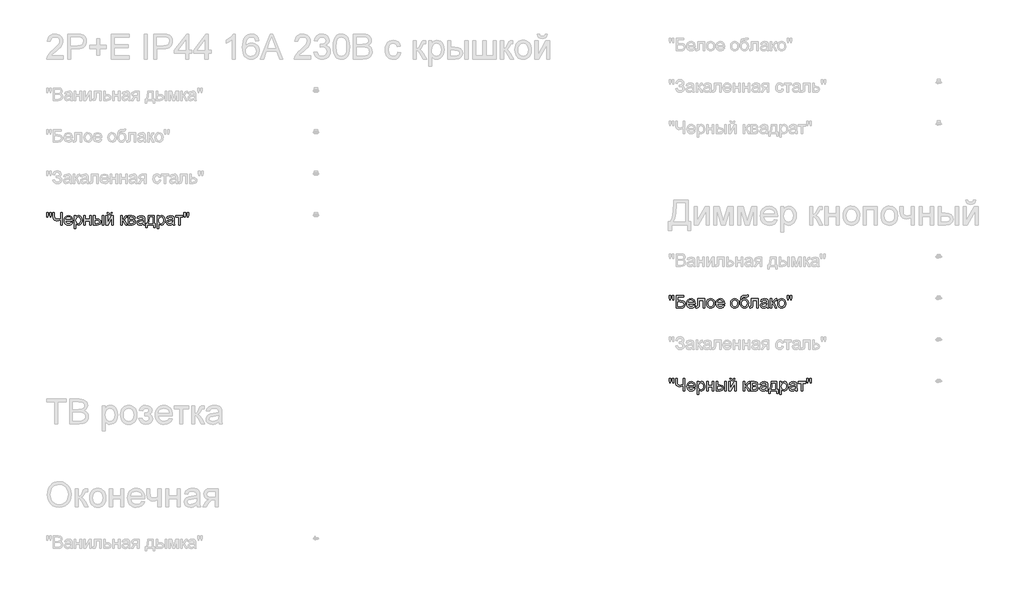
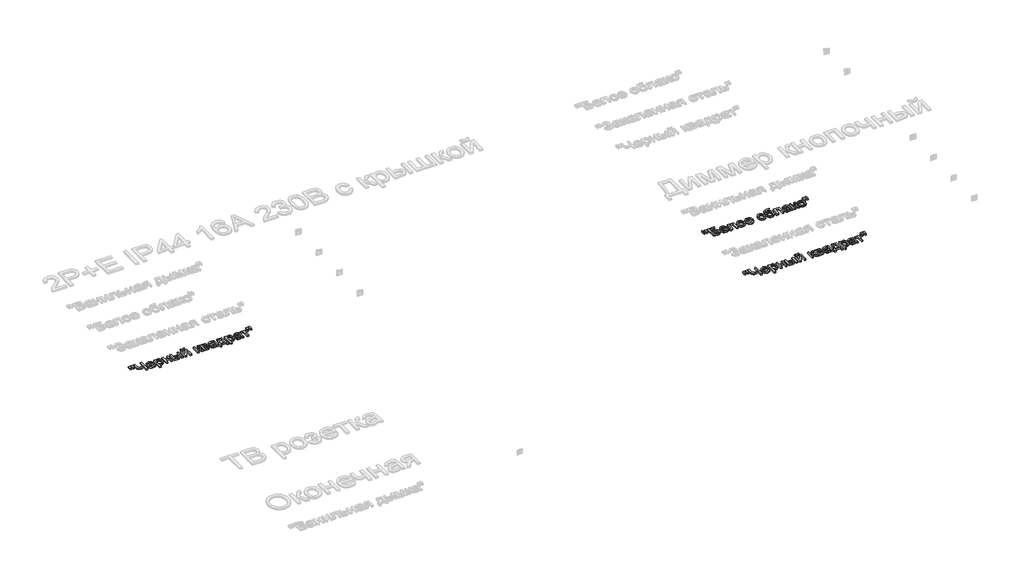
# One storey, part 150 of 168: 3 proxies.
"""IFC4 building model written with IfcOpenShell, lengths in millimetres."""

import ifcopenshell
import ifcopenshell.guid

model = None  # the IFC model being written
_history = None  # IfcOwnerHistory: only IFC2X3 demands one
_inside = {}  # id of a spatial element -> (the spatial element, [elements in it])
_under = {}  # id of a project, library or spatial element -> (it, [spatial elements below it])
_declared = {}  # id of a project -> (the project, [libraries it declares])
_typed = {}  # id of a type object -> (the type object, [elements of that type])
_made_of = {}  # id of a material, layer set ... -> (it, [elements and type objects made of it])


def new_model(schema):
    """Start an empty IFC model of exactly this schema.

    Asked for "IFC4X3", IfcOpenShell would pick the latest addendum, in which some entities
    have other attributes; the version numbers below select the first issue.
    IFC2X3 requires an IfcOwnerHistory on every rooted entity: one is made here for all.
    """
    global model, _history
    if schema == "IFC4X3":
        model = ifcopenshell.file(schema_version=(4, 3, 0, 0))
    else:
        model = ifcopenshell.file(schema=schema)
    _inside.clear()
    _under.clear()
    _declared.clear()
    _typed.clear()
    _made_of.clear()
    _history = None
    if model.schema == "IFC2X3":
        org = make("IfcOrganization", Name="unknown")
        user = make(
            "IfcPersonAndOrganization",
            ThePerson=make("IfcPerson", FamilyName="unknown"),
            TheOrganization=org,
        )
        app = make(
            "IfcApplication",
            ApplicationDeveloper=org,
            Version="unknown",
            ApplicationFullName="unknown",
            ApplicationIdentifier="unknown",
        )
        _history = make(
            "IfcOwnerHistory",
            OwningUser=user,
            OwningApplication=app,
            ChangeAction="ADDED",
            CreationDate=0,
        )
    return model


def make(cls, **values):
    """One entity of the class cls with the attributes given. An attribute that is None is left unset."""
    return model.create_entity(
        cls, **{name: value for name, value in values.items() if value is not None}
    )


def rooted(cls, **values):
    """An entity with a GlobalId (a new one), such as an element, a storey or a relation."""
    return make(cls, GlobalId=ifcopenshell.guid.new(), OwnerHistory=_history, **values)


def si_unit(unit_type, name, prefix=None):
    """IfcSIUnit, for example si_unit("LENGTHUNIT", "METRE", prefix="MILLI")."""
    return make("IfcSIUnit", UnitType=unit_type, Prefix=prefix, Name=name)


def assignment(units):
    """IfcUnitAssignment: the units of a project."""
    return None if units is None else make("IfcUnitAssignment", Units=units)


def point(xyz):
    """IfcCartesianPoint."""
    return None if xyz is None else make("IfcCartesianPoint", Coordinates=xyz)


def direction(xyz):
    """IfcDirection."""
    return None if xyz is None else make("IfcDirection", DirectionRatios=xyz)


def frame(location, z_axis=None, x_axis=None):
    """IfcAxis2Placement3D, a coordinate frame: its origin and axes. An axis left out is left unset."""
    return make(
        "IfcAxis2Placement3D",
        Location=point(location),
        Axis=direction(z_axis),
        RefDirection=direction(x_axis),
    )


def origin():
    """The frame at (0, 0, 0) with its axes left unset."""
    return frame((0.0, 0.0, 0.0))


def origin_with_axes():
    """The frame at (0, 0, 0) with the z axis (0, 0, 1) and the x axis (1, 0, 0) written out."""
    return frame((0.0, 0.0, 0.0), z_axis=(0.0, 0.0, 1.0), x_axis=(1.0, 0.0, 0.0))


def place(relative_to, where):
    """IfcLocalPlacement: puts the frame where relative to a parent placement (None: the world)."""
    return make(
        "IfcLocalPlacement", PlacementRelTo=relative_to, RelativePlacement=where
    )


def context(
    kind, dimensions, precision=None, world=None, true_north=None, identifier=None
):
    """IfcGeometricRepresentationContext, for example the 3D "Model" context."""
    return make(
        "IfcGeometricRepresentationContext",
        ContextIdentifier=identifier,
        ContextType=kind,
        CoordinateSpaceDimension=dimensions,
        Precision=precision,
        WorldCoordinateSystem=world,
        TrueNorth=true_north,
    )


def project(units=None, contexts=None):
    """IfcProject with its units and contexts."""
    return rooted(
        "IfcProject",
        Name="project",
        RepresentationContexts=contexts,
        UnitsInContext=assignment(units),
    )


def spatial(cls, under=None, at=None, **own):
    """A site, building, storey or space (cls), placed at a placement, below another one or the project."""
    s = rooted(cls, ObjectPlacement=at, **own)
    if under is not None:
        _under.setdefault(under.id(), (under, []))[1].append(s)
    return s


def polyline(points):
    """IfcPolyline through the points."""
    return make("IfcPolyline", Points=[point(p) for p in points])


def outline(outer, holes=None, kind="AREA"):
    """IfcArbitraryClosedProfileDef: a profile drawn as a closed curve; with holes, ...WithVoids."""
    if holes is None:
        return make("IfcArbitraryClosedProfileDef", ProfileType=kind, OuterCurve=outer)
    return make(
        "IfcArbitraryProfileDefWithVoids",
        ProfileType=kind,
        OuterCurve=outer,
        InnerCurves=holes,
    )


def extrude(swept, where, along, depth):
    """IfcExtrudedAreaSolid: the profile swept, set in the frame where, extruded along a direction by depth."""
    return make(
        "IfcExtrudedAreaSolid",
        SweptArea=swept,
        Position=where,
        ExtrudedDirection=direction(along),
        Depth=depth,
    )


def shape(context_of_items, identifier, shape_type, items):
    """IfcShapeRepresentation: the items that make up one representation, for example the "Body"."""
    return make(
        "IfcShapeRepresentation",
        ContextOfItems=context_of_items,
        RepresentationIdentifier=identifier,
        RepresentationType=shape_type,
        Items=items,
    )


def made_of(thing, what):
    """Note that an element or type object is made of a material, layer set ...; save() writes the relation."""
    if what is not None:
        _made_of.setdefault(what.id(), (what, []))[1].append(thing)
    return thing


def element(
    cls,
    number,
    at=None,
    inside=None,
    cuts=None,
    type_object=None,
    material=None,
    context=None,
    identifier="Body",
    shape_type=None,
    held_by="IfcProductDefinitionShape",
    body=None,
    shapes=None,
    **own,
):
    """One element of the class cls, such as IfcWall. Its Tag is "e" and its number.

    at: its placement. inside: the storey or other place that contains it. cuts: it is an
    opening in that element (IfcRelVoidsElement). A single representation is given by context,
    identifier, shape_type and body (its items); several are given by shapes. held_by: the class
    of the entity that holds the representations. save() writes the other relations.
    """
    e = rooted(cls, Tag="e%d" % number, ObjectPlacement=at, **own)
    if body is not None:
        shapes = [shape(context, identifier, shape_type, body)]
    if shapes is not None:
        e.Representation = make(held_by, Representations=shapes)
    if inside is not None:
        _inside.setdefault(inside.id(), (inside, []))[1].append(e)
    if cuts is not None:
        rooted(
            "IfcRelVoidsElement", RelatingBuildingElement=cuts, RelatedOpeningElement=e
        )
    if type_object is not None:
        _typed.setdefault(type_object.id(), (type_object, []))[1].append(e)
    return made_of(e, material)


def aggregate(whole, parts):
    """IfcRelAggregates: a whole, such as a stair, and the parts it consists of."""
    return rooted("IfcRelAggregates", RelatingObject=whole, RelatedObjects=parts)


def save(model, path):
    """Write the relations noted so far, then the file.

    IfcRelAggregates (storeys below a building ...), IfcRelContainedInSpatialStructure (elements
    in a storey), IfcRelDefinesByType, IfcRelAssociatesMaterial and IfcRelDeclares: one each for
    every whole, place, type object, material and project.
    """
    for whole, parts in _under.values():
        aggregate(whole, parts)
    for where, things in _inside.values():
        rooted(
            "IfcRelContainedInSpatialStructure",
            RelatedElements=things,
            RelatingStructure=where,
        )
    for kind, things in _typed.values():
        rooted("IfcRelDefinesByType", RelatedObjects=things, RelatingType=kind)
    for what, things in _made_of.values():
        rooted("IfcRelAssociatesMaterial", RelatedObjects=things, RelatingMaterial=what)
    for by, libraries in _declared.values():
        rooted("IfcRelDeclares", RelatingContext=by, RelatedDefinitions=libraries)
    model.write(path)


model = new_model("IFC4")

# Units and contexts
model_context = context("Model", 3, world=origin())
ifc_project = project(units=[si_unit("LENGTHUNIT", "METRE", prefix="MILLI")], contexts=[model_context])

# Site, building, storey
site = spatial("IfcSite", under=ifc_project)
building = spatial("IfcBuilding", under=site)
storey = spatial("IfcBuildingStorey", under=building, Name="Этаж 01", Elevation=0.0)

# Proxies
placement = place(None, origin())
element("IfcBuildingElementProxy", 1, Name="150", ObjectType="150", at=placement, inside=storey, context=model_context, shape_type="SweptSolid", body=[
    extrude(outline(polyline([(63580.1485789, -11151.873446), (63575.550054, -11122.7739802), (63575.550054, -11097.7212163), (63594.3856121, -11097.7212163), (63594.3856121, -11122.7739802), (63590.2653338, -11151.873446), (63580.1485789, -11151.873446)])), origin_with_axes(), (0.0, 0.0, 1.0), 20.0),
    extrude(outline(polyline([(63617.7093306, -11151.873446), (63613.2211703, -11122.7739802), (63613.2211703, -11097.7212163), (63632.0567284, -11097.7212163), (63632.0567284, -11122.7739802), (63627.6421445, -11151.873446), (63617.7093306, -11151.873446)])), origin_with_axes(), (0.0, 0.0, 1.0), 20.0),
    extrude(outline(polyline([(63763.9056355, -11248.4056816), (63745.0700773, -11248.4056816), (63745.0700773, -11188.0730344), (63720.0908899, -11196.2400147), (63698.4226404, -11198.9623414), (63683.7395502, -11197.0999388), (63670.886673, -11191.512731), (63660.926268, -11183.0606422), (63654.9205944, -11172.6035965), (63650.8922866, -11142.6028198), (63650.8922866, -11097.7212163), (63669.7278447, -11097.7212163), (63669.7278447, -11140.064434), (63671.990319, -11160.4313009), (63678.7777418, -11172.3828673), (63688.7381468, -11178.1908043), (63700.5195677, -11180.1267833), (63722.2521966, -11177.7907326), (63745.0700773, -11170.7825806), (63745.0700773, -11097.7212163), (63763.9056355, -11097.7212163), (63763.9056355, -11248.4056816)])), origin_with_axes(), (0.0, 0.0, 1.0), 20.0),
    extrude(outline(polyline([(63871.9893657, -11215.4434548), (63890.4570418, -11217.7978996), (63883.8029763, -11231.713036), (63873.1849822, -11242.1148995), (63858.8421829, -11248.5988196), (63841.0137017, -11250.7601263), (63818.9131908, -11247.0307226), (63801.9078456, -11235.8425114), (63791.0645238, -11217.9220597), (63787.4500832, -11193.9959345), (63791.101312, -11169.2650674), (63802.0549984, -11150.7698), (63818.8304174, -11139.2366995), (63839.9468439, -11135.3923327), (63860.4056814, -11139.2275025), (63876.7534375, -11150.7330118), (63887.4725992, -11169.191491), (63891.045653, -11193.8855699), (63890.9352884, -11198.9623414), (63806.2856413, -11198.9623414), (63809.5459955, -11213.0614189), (63817.1197661, -11223.4264941), (63828.0504599, -11229.8000497), (63841.3815837, -11231.9245682), (63859.8492598, -11227.9882308), (63871.9893657, -11215.4434548)]), holes=[polyline([(63806.2856413, -11180.1267833), (63872.2100949, -11180.1267833), (63869.6625121, -11170.1755753), (63864.668514, -11163.0570587), (63853.6872364, -11156.4351828), (63839.8732675, -11154.2278908), (63827.1767401, -11155.9891259), (63816.6783077, -11161.272831), (63809.3804486, -11169.5087892), (63806.2856413, -11180.1267833)])]), origin_with_axes(), (0.0, 0.0, 1.0), 20.0),
    extrude(outline(polyline([(63909.8812112, -11290.7856874), (63909.8812112, -11137.7467774), (63928.7167693, -11137.7467774), (63928.7167693, -11156.2144536), (63941.739792, -11140.5978629), (63959.3245513, -11135.3923327), (63972.0624654, -11137.2133485), (63983.2000928, -11142.6763962), (63992.268384, -11151.4503817), (63998.7982894, -11163.2042115), (64004.0590019, -11192.2301009), (64002.5736784, -11208.3387338), (63998.1177077, -11222.7459124), (63990.8336442, -11234.7204713), (63980.8640422, -11243.5312451), (63969.2527667, -11248.952906), (63957.043683, -11250.7601263), (63940.6545401, -11245.9224781), (63928.7167693, -11233.6904018), (63928.7167693, -11290.7856874), (63909.8812112, -11290.7856874)]), holes=[polyline([(63928.7167693, -11193.9591463), (63930.7539159, -11210.8449299), (63936.8653555, -11222.6539419), (63945.8830629, -11229.6069116), (63956.6390128, -11231.9245682), (63967.5697066, -11229.5241382), (63976.8173402, -11222.3228481), (63983.1219179, -11210.0815747), (63985.2234438, -11192.5611947), (63983.1725017, -11175.7673816), (63977.0196753, -11163.7928227), (63968.0157635, -11156.6191238), (63957.411565, -11154.2278908), (63946.7659797, -11156.7708751), (63937.4171785, -11164.399828), (63930.8918716, -11176.8756261), (63928.7167693, -11193.9591463)])]), origin_with_axes(), (0.0, 0.0, 1.0), 20.0),
    extrude(outline(polyline([(64025.2490049, -11137.7467774), (64044.084563, -11137.7467774), (64044.084563, -11180.1267833), (64093.5279032, -11180.1267833), (64093.5279032, -11137.7467774), (64112.3634613, -11137.7467774), (64112.3634613, -11248.4056816), (64093.5279032, -11248.4056816), (64093.5279032, -11198.9623414), (64044.084563, -11198.9623414), (64044.084563, -11248.4056816), (64025.2490049, -11248.4056816), (64025.2490049, -11137.7467774)])), origin_with_axes(), (0.0, 0.0, 1.0), 20.0),
    extrude(outline(polyline([(64244.2123684, -11137.7467774), (64263.0479266, -11137.7467774), (64263.0479266, -11248.4056816), (64244.2123684, -11248.4056816), (64244.2123684, -11137.7467774)])), origin_with_axes(), (0.0, 0.0, 1.0), 20.0),
    extrude(outline(polyline([(64140.6167986, -11137.7467774), (64159.4523567, -11137.7467774), (64159.4523567, -11177.7723385), (64182.739287, -11177.7723385), (64202.8670307, -11180.1313818), (64217.780047, -11187.2085117), (64227.0092866, -11198.433511), (64230.0856998, -11213.2361628), (64227.5059273, -11226.7144394), (64219.7666098, -11238.0865916), (64206.3619096, -11245.8259091), (64186.785989, -11248.4056816), (64140.6167986, -11248.4056816), (64140.6167986, -11137.7467774)]), holes=[polyline([(64159.4523567, -11229.5701234), (64178.8029497, -11229.5701234), (64203.7821371, -11225.615392), (64209.3831405, -11220.552416), (64211.2501416, -11213.272951), (64205.7135176, -11201.6846682), (64196.8337659, -11197.8770895), (64181.267759, -11196.6078966), (64159.4523567, -11196.6078966), (64159.4523567, -11229.5701234)])]), origin_with_axes(), (0.0, 0.0, 1.0), 20.0),
    extrude(outline(polyline([(64291.3012638, -11137.7467774), (64310.1368219, -11137.7467774), (64310.1368219, -11222.1389071), (64356.4163769, -11137.7467774), (64380.770165, -11137.7467774), (64380.770165, -11248.4056816), (64361.9346069, -11248.4056816), (64361.9346069, -11164.5285867), (64315.9493575, -11248.4056816), (64291.3012638, -11248.4056816), (64291.3012638, -11137.7467774)])), origin_with_axes(), (0.0, 0.0, 1.0), 20.0),
    extrude(outline(polyline([(64352.5168278, -11097.7212163), (64366.6434964, -11097.7212163), (64363.6038714, -11109.7831473), (64357.5016288, -11118.672096), (64348.6126801, -11124.1489392), (64337.2129368, -11125.9745536), (64324.8429047, -11124.1627347), (64315.2503817, -11118.7272783), (64308.6928851, -11109.8521251), (64305.4279324, -11097.7212163), (64319.554601, -11097.7212163), (64324.8521017, -11108.3346119), (64335.5206796, -11111.847885), (64347.219327, -11108.4449765), (64352.5168278, -11097.7212163)])), origin_with_axes(), (0.0, 0.0, 1.0), 20.0),
    extrude(outline(polyline([(64467.8846215, -11137.7467774), (64486.7201796, -11137.7467774), (64486.7201796, -11184.8356728), (64499.3385321, -11181.4511584), (64509.6760161, -11161.7326835), (64518.2660607, -11144.7181412), (64525.8444298, -11139.1815172), (64539.6216105, -11137.7467774), (64543.2268541, -11137.7467774), (64543.2268541, -11156.6927002), (64538.1500825, -11156.5823356), (64528.9530327, -11158.5688983), (64522.4783096, -11170.9665216), (64514.8815464, -11184.3758203), (64504.2313626, -11190.9425139), (64516.113951, -11198.2725627), (64527.7758103, -11213.7144094), (64547.9357436, -11248.4056816), (64526.5250115, -11248.4056816), (64506.7697484, -11214.4501734), (64496.8369345, -11200.0843815), (64486.7201796, -11196.6078966), (64486.7201796, -11248.4056816), (64467.8846215, -11248.4056816), (64467.8846215, -11137.7467774)])), origin_with_axes(), (0.0, 0.0, 1.0), 20.0),
    extrude(outline(polyline([(64559.7079675, -11137.7467774), (64601.2050565, -11137.7467774), (64623.9585579, -11140.2667691), (64636.7608514, -11149.5006072), (64642.1135344, -11165.5954445), (64638.8761728, -11178.6736494), (64629.1273, -11187.999458), (64641.7824406, -11198.2081833), (64646.8224239, -11215.9584896), (64643.6310476, -11230.3150845), (64636.0434815, -11240.4226423), (64624.0321343, -11246.4099217), (64607.569415, -11248.4056816), (64559.7079675, -11248.4056816), (64559.7079675, -11137.7467774)]), holes=[polyline([(64578.5435256, -11180.1267833), (64597.1583546, -11180.1267833), (64612.5174279, -11179.1702901), (64619.9854324, -11175.3443173), (64623.2779762, -11168.4281358), (64621.8340394, -11162.8087383), (64617.5022289, -11159.1942977), (64597.7469658, -11156.5823356), (64578.5435256, -11156.5823356), (64578.5435256, -11180.1267833)]), polyline([(64578.5435256, -11229.5701234), (64601.6465149, -11229.5701234), (64622.137542, -11226.167215), (64626.377382, -11221.5273033), (64627.9868658, -11214.4133852), (64624.7678983, -11205.345094), (64616.3801888, -11200.0659874), (64599.8071049, -11198.9623414), (64578.5435256, -11198.9623414), (64578.5435256, -11229.5701234)])]), origin_with_axes(), (0.0, 0.0, 1.0), 20.0),
    extrude(outline(polyline([(64741.0002147, -11234.279013), (64722.7348736, -11247.0445182), (64702.5565462, -11250.7601263), (64686.8157953, -11248.5252432), (64675.2045198, -11241.8205939), (64668.0446165, -11231.6394596), (64665.6579821, -11218.975122), (64669.2632256, -11204.0759012), (64678.736187, -11193.2601705), (64691.9247565, -11187.079753), (64708.2219289, -11184.2470616), (64740.8898501, -11177.7723385), (64741.0002147, -11173.5784838), (64739.7034307, -11165.1723802), (64735.8130786, -11159.6725443), (64727.1126694, -11155.5890542), (64714.9909576, -11154.2278908), (64695.9346703, -11157.8515285), (64686.847985, -11170.7090042), (64668.0124268, -11168.3545594), (64676.161013, -11149.9604597), (64692.56855, -11139.1815172), (64717.4189788, -11135.3923327), (64740.2460566, -11138.7400588), (64753.1403205, -11147.1461624), (64758.9160679, -11159.9300617), (64759.8357728, -11176.4111751), (64759.8357728, -11199.8452582), (64760.792266, -11232.5683617), (64764.5446624, -11248.4056816), (64745.7091042, -11248.4056816), (64741.0002147, -11234.279013)]), holes=[polyline([(64741.0002147, -11196.6078966), (64710.6131619, -11202.383644), (64694.40796, -11205.4370645), (64687.0687142, -11210.4034715), (64684.4935402, -11217.6507468), (64690.1037407, -11227.841078), (64706.5664599, -11231.9245682), (64725.6227473, -11227.4180137), (64737.9100059, -11216.5103126), (64740.8898501, -11201.9421856), (64741.0002147, -11196.6078966)])]), origin_with_axes(), (0.0, 0.0, 1.0), 20.0),
    extrude(outline(polyline([(64802.2157787, -11137.7467774), (64872.8491218, -11137.7467774), (64872.8491218, -11229.5701234), (64886.9757904, -11229.5701234), (64886.9757904, -11279.0134636), (64868.1402322, -11279.0134636), (64868.1402322, -11248.4056816), (64790.4435548, -11248.4056816), (64790.4435548, -11279.0134636), (64771.6079967, -11279.0134636), (64771.6079967, -11229.5701234), (64783.3802205, -11229.5701234), (64791.9380754, -11214.105284), (64797.9299534, -11193.6464466), (64802.2157787, -11137.7467774)]), holes=[polyline([(64818.6968921, -11156.5823356), (64814.2823081, -11199.4957703), (64804.5702235, -11229.5701234), (64854.0135636, -11229.5701234), (64854.0135636, -11156.5823356), (64818.6968921, -11156.5823356)])]), origin_with_axes(), (0.0, 0.0, 1.0), 20.0),
    extrude(outline(polyline([(64908.1657933, -11290.7856874), (64908.1657933, -11137.7467774), (64927.0013514, -11137.7467774), (64927.0013514, -11156.2144536), (64940.0243741, -11140.5978629), (64957.6091334, -11135.3923327), (64970.3470475, -11137.2133485), (64981.4846749, -11142.6763962), (64990.5529661, -11151.4503817), (64997.0828715, -11163.2042115), (65002.3435841, -11192.2301009), (65000.8582605, -11208.3387338), (64996.4022898, -11222.7459124), (64989.1182263, -11234.7204713), (64979.1486243, -11243.5312451), (64967.5373488, -11248.952906), (64955.3282651, -11250.7601263), (64938.9391222, -11245.9224781), (64927.0013514, -11233.6904018), (64927.0013514, -11290.7856874), (64908.1657933, -11290.7856874)]), holes=[polyline([(64927.0013514, -11193.9591463), (64929.038498, -11210.8449299), (64935.1499376, -11222.6539419), (64944.167645, -11229.6069116), (64954.9235949, -11231.9245682), (64965.8542887, -11229.5241382), (64975.1019223, -11222.3228481), (64981.4065, -11210.0815747), (64983.5080259, -11192.5611947), (64981.4570838, -11175.7673816), (64975.3042574, -11163.7928227), (64966.3003456, -11156.6191238), (64955.6961471, -11154.2278908), (64945.0505618, -11156.7708751), (64935.7017606, -11164.399828), (64929.1764537, -11176.8756261), (64927.0013514, -11193.9591463)])]), origin_with_axes(), (0.0, 0.0, 1.0), 20.0),
    extrude(outline(polyline([(65094.1669301, -11234.279013), (65075.901589, -11247.0445182), (65055.7232616, -11250.7601263), (65039.9825107, -11248.5252432), (65028.3712352, -11241.8205939), (65021.2113319, -11231.6394596), (65018.8246974, -11218.975122), (65022.429941, -11204.0759012), (65031.9029024, -11193.2601705), (65045.0914719, -11187.079753), (65061.3886443, -11184.2470616), (65094.0565655, -11177.7723385), (65094.1669301, -11173.5784838), (65092.870146, -11165.1723802), (65088.9797939, -11159.6725443), (65080.2793847, -11155.5890542), (65068.157673, -11154.2278908), (65049.1013856, -11157.8515285), (65040.0147004, -11170.7090042), (65021.1791422, -11168.3545594), (65029.3277284, -11149.9604597), (65045.7352654, -11139.1815172), (65070.5856942, -11135.3923327), (65093.412772, -11138.7400588), (65106.3070359, -11147.1461624), (65112.0827832, -11159.9300617), (65113.0024882, -11176.4111751), (65113.0024882, -11199.8452582), (65113.9589814, -11232.5683617), (65117.7113777, -11248.4056816), (65098.8758196, -11248.4056816), (65094.1669301, -11234.279013)]), holes=[polyline([(65094.1669301, -11196.6078966), (65063.7798773, -11202.383644), (65047.5746754, -11205.4370645), (65040.2354296, -11210.4034715), (65037.6602556, -11217.6507468), (65043.270456, -11227.841078), (65059.7331753, -11231.9245682), (65078.7894627, -11227.4180137), (65091.0767213, -11216.5103126), (65094.0565655, -11201.9421856), (65094.1669301, -11196.6078966)])]), origin_with_axes(), (0.0, 0.0, 1.0), 20.0),
    extrude(outline(polyline([(65129.4836016, -11137.7467774), (65218.9525028, -11137.7467774), (65218.9525028, -11156.5823356), (65183.6358313, -11156.5823356), (65183.6358313, -11248.4056816), (65164.8002731, -11248.4056816), (65164.8002731, -11156.5823356), (65129.4836016, -11156.5823356), (65129.4836016, -11137.7467774)])), origin_with_axes(), (0.0, 0.0, 1.0), 20.0),
    extrude(outline(polyline([(65235.3232516, -11151.873446), (65230.7247267, -11122.7739802), (65230.7247267, -11097.7212163), (65249.5602848, -11097.7212163), (65249.5602848, -11122.7739802), (65245.4400065, -11151.873446), (65235.3232516, -11151.873446)])), origin_with_axes(), (0.0, 0.0, 1.0), 20.0),
    extrude(outline(polyline([(65272.8840033, -11151.873446), (65268.395843, -11122.7739802), (65268.395843, -11097.7212163), (65287.2314011, -11097.7212163), (65287.2314011, -11122.7739802), (65282.8168172, -11151.873446), (65272.8840033, -11151.873446)])), origin_with_axes(), (0.0, 0.0, 1.0), 20.0),
])
element("IfcBuildingElementProxy", 2, Name="150", ObjectType="150", at=placement, inside=storey, context=model_context, shape_type="SweptSolid", body=[
    extrude(outline(polyline([(71080.1485789, -12151.873446), (71075.550054, -12122.7739802), (71075.550054, -12097.7212163), (71094.3856121, -12097.7212163), (71094.3856121, -12122.7739802), (71090.2653338, -12151.873446), (71080.1485789, -12151.873446)])), origin_with_axes(), (0.0, 0.0, 1.0), 20.0),
    extrude(outline(polyline([(71117.7093306, -12151.873446), (71113.2211703, -12122.7739802), (71113.2211703, -12097.7212163), (71132.0567284, -12097.7212163), (71132.0567284, -12122.7739802), (71127.6421445, -12151.873446), (71117.7093306, -12151.873446)])), origin_with_axes(), (0.0, 0.0, 1.0), 20.0),
    extrude(outline(polyline([(71157.9556209, -12097.7212163), (71252.1334117, -12097.7212163), (71252.1334117, -12116.5567745), (71176.791179, -12116.5567745), (71176.791179, -12161.2912251), (71212.0710624, -12161.2912251), (71243.157091, -12165.1171979), (71253.5589544, -12170.6446248), (71261.6615553, -12179.5749603), (71266.8762826, -12191.0712726), (71268.614525, -12204.2966303), (71263.6665122, -12225.7625448), (71248.8960501, -12242.0781113), (71235.6247071, -12246.823789), (71215.4555767, -12248.4056816), (71157.9556209, -12248.4056816), (71157.9556209, -12097.7212163)]), holes=[polyline([(71176.791179, -12229.5701234), (71217.1478339, -12229.5701234), (71231.4124583, -12228.015822), (71241.6119866, -12223.3529177), (71247.7372218, -12215.5814105), (71249.7789669, -12204.7013005), (71245.1068655, -12189.9492325), (71232.102237, -12182.0765578), (71203.7201411, -12180.1267833), (71176.791179, -12180.1267833), (71176.791179, -12229.5701234)])]), origin_with_axes(), (0.0, 0.0, 1.0), 20.0),
    extrude(outline(polyline([(71369.6349209, -12215.4434548), (71388.1025971, -12217.7978996), (71381.4485315, -12231.713036), (71370.8305374, -12242.1148995), (71356.4877381, -12248.5988196), (71338.6592569, -12250.7601263), (71316.5587461, -12247.0307226), (71299.5534008, -12235.8425114), (71288.710079, -12217.9220597), (71285.0956384, -12193.9959345), (71288.7468672, -12169.2650674), (71299.7005536, -12150.7698), (71316.4759726, -12139.2366995), (71337.5923991, -12135.3923327), (71358.0512366, -12139.2275025), (71374.3989927, -12150.7330118), (71385.1181544, -12169.191491), (71388.6912083, -12193.8855699), (71388.5808437, -12198.9623414), (71303.9311966, -12198.9623414), (71307.1915508, -12213.0614189), (71314.7653213, -12223.4264941), (71325.6960151, -12229.8000497), (71339.0271389, -12231.9245682), (71357.4948151, -12227.9882308), (71369.6349209, -12215.4434548)]), holes=[polyline([(71303.9311966, -12180.1267833), (71369.8556501, -12180.1267833), (71367.3080673, -12170.1755753), (71362.3140692, -12163.0570587), (71351.3327917, -12156.4351828), (71337.5188227, -12154.2278908), (71324.8222954, -12155.9891259), (71314.3238629, -12161.272831), (71307.0260039, -12169.5087892), (71303.9311966, -12180.1267833)])]), origin_with_axes(), (0.0, 0.0, 1.0), 20.0),
    extrude(outline(polyline([(71416.9445455, -12137.7467774), (71501.7045572, -12137.7467774), (71501.7045572, -12248.295317), (71482.868999, -12248.295317), (71482.868999, -12156.5823356), (71435.7801036, -12156.5823356), (71435.7801036, -12209.3734019), (71434.5109108, -12233.72719), (71427.539547, -12244.0094917), (71411.0584336, -12248.4056816), (71395.7545426, -12247.4491884), (71395.7545426, -12229.5701234), (71404.1790403, -12229.5701234), (71412.6955084, -12228.4112951), (71416.0984169, -12224.7324752), (71416.9445455, -12208.3065441), (71416.9445455, -12137.7467774)])), origin_with_axes(), (0.0, 0.0, 1.0), 20.0),
    extrude(outline(polyline([(71525.2490049, -12193.0762295), (71529.323298, -12166.3955878), (71541.5461773, -12147.6428031), (71556.6477332, -12138.4549503), (71574.7291332, -12135.3923327), (71594.516586, -12139.1217364), (71610.3217163, -12150.3099476), (71620.6821929, -12168.0740494), (71624.1356852, -12191.5311251), (71622.6089749, -12210.5598213), (71618.0288441, -12225.0451749), (71610.5286499, -12235.8930952), (71600.2417496, -12244.0094917), (71588.0234688, -12249.0724677), (71574.7291332, -12250.7601263), (71554.7025571, -12247.0445182), (71538.915821, -12235.8976937), (71528.6657089, -12217.7611114), (71525.2490049, -12193.0762295)]), holes=[polyline([(71544.084563, -12193.0394413), (71546.2642638, -12210.0861732), (71552.8033663, -12222.2308776), (71562.6442097, -12229.5011455), (71574.7291332, -12231.9245682), (71586.7588745, -12229.48735), (71596.5813237, -12222.1756953), (71603.1204262, -12209.8700426), (71605.300127, -12192.4508301), (71603.1066306, -12175.9007388), (71596.5261414, -12163.9215814), (71586.6898966, -12156.6513134), (71574.7291332, -12154.2278908), (71562.6442097, -12156.6421164), (71552.8033663, -12163.8847932), (71546.2642638, -12176.0019064), (71544.084563, -12193.0394413)])]), origin_with_axes(), (0.0, 0.0, 1.0), 20.0),
    extrude(outline(polyline([(71722.8016363, -12215.4434548), (71741.2693124, -12217.7978996), (71734.6152469, -12231.713036), (71723.9972528, -12242.1148995), (71709.6544535, -12248.5988196), (71691.8259723, -12250.7601263), (71669.7254614, -12247.0307226), (71652.7201162, -12235.8425114), (71641.8767944, -12217.9220597), (71638.2623538, -12193.9959345), (71641.9135826, -12169.2650674), (71652.867269, -12150.7698), (71669.642688, -12139.2366995), (71690.7591145, -12135.3923327), (71711.217952, -12139.2275025), (71727.5657081, -12150.7330118), (71738.2848698, -12169.191491), (71741.8579236, -12193.8855699), (71741.747559, -12198.9623414), (71657.0979119, -12198.9623414), (71660.3582661, -12213.0614189), (71667.9320367, -12223.4264941), (71678.8627305, -12229.8000497), (71692.1938543, -12231.9245682), (71710.6615304, -12227.9882308), (71722.8016363, -12215.4434548)]), holes=[polyline([(71657.0979119, -12180.1267833), (71723.0223655, -12180.1267833), (71720.4747827, -12170.1755753), (71715.4807846, -12163.0570587), (71704.499507, -12156.4351828), (71690.6855381, -12154.2278908), (71677.9890107, -12155.9891259), (71667.4905783, -12161.272831), (71660.1927192, -12169.5087892), (71657.0979119, -12180.1267833)])]), origin_with_axes(), (0.0, 0.0, 1.0), 20.0),
    extrude(outline(polyline([(71814.8457115, -12193.0762295), (71818.9200046, -12166.3955878), (71831.1428839, -12147.6428031), (71846.2444398, -12138.4549503), (71864.3258398, -12135.3923327), (71884.1132926, -12139.1217364), (71899.9184229, -12150.3099476), (71910.2788995, -12168.0740494), (71913.7323918, -12191.5311251), (71912.2056815, -12210.5598213), (71907.6255507, -12225.0451749), (71900.1253565, -12235.8930952), (71889.8384562, -12244.0094917), (71877.6201754, -12249.0724677), (71864.3258398, -12250.7601263), (71844.2992637, -12247.0445182), (71828.5125276, -12235.8976937), (71818.2624155, -12217.7611114), (71814.8457115, -12193.0762295)]), holes=[polyline([(71833.6812696, -12193.0394413), (71835.8609704, -12210.0861732), (71842.4000729, -12222.2308776), (71852.2409163, -12229.5011455), (71864.3258398, -12231.9245682), (71876.3555811, -12229.48735), (71886.1780303, -12222.1756953), (71892.7171328, -12209.8700426), (71894.8968336, -12192.4508301), (71892.7033372, -12175.9007388), (71886.122848, -12163.9215814), (71876.2866032, -12156.6513134), (71864.3258398, -12154.2278908), (71852.2409163, -12156.6421164), (71842.4000729, -12163.8847932), (71835.8609704, -12176.0019064), (71833.6812696, -12193.0394413)])]), origin_with_axes(), (0.0, 0.0, 1.0), 20.0),
    extrude(outline(polyline([(72012.6190721, -12095.3667716), (72029.1001855, -12095.3667716), (72024.2441431, -12110.0636573), (72014.6424231, -12115.3795521), (71991.576222, -12116.5567745), (71960.5085875, -12120.897782), (71953.3808738, -12126.5447707), (71948.5892108, -12134.8037215), (71944.560903, -12159.4150269), (71960.8764695, -12141.3888092), (71970.7954878, -12136.8914518), (71981.9009255, -12135.3923327), (72001.4998388, -12139.2045098), (72017.401538, -12150.6410414), (72027.9413572, -12168.5798871), (72031.4546302, -12191.8990071), (72029.7117893, -12209.8792396), (72024.4832664, -12224.3094109), (72007.9469707, -12243.8623389), (71996.6529935, -12249.0356795), (71981.9009255, -12250.7601263), (71964.9001788, -12248.5390388), (71952.1576662, -12241.8757762), (71942.7812738, -12231.7498242), (71935.8788879, -12219.1406689), (71931.6298508, -12200.1533594), (71930.2135052, -12170.8929452), (71933.786559, -12134.7531377), (71944.5057207, -12112.7124076), (71962.6377045, -12101.4690142), (71988.449225, -12097.7212163), (72009.4184987, -12097.2981521), (72012.6190721, -12095.3667716)]), holes=[polyline([(72012.6190721, -12191.3103959), (72010.577327, -12176.48935), (72004.4520918, -12164.6205572), (71994.6112484, -12156.8260574), (71981.4226789, -12154.2278908), (71967.6730893, -12156.9732102), (71957.473561, -12165.2091684), (71951.1551877, -12178.0344544), (71949.0490633, -12194.5477575), (71951.3759169, -12210.5552228), (71958.3564778, -12222.304454), (71968.7491442, -12229.5195396), (71981.3123143, -12231.9245682), (71993.9398638, -12229.1424606), (72003.937057, -12220.7961378), (72010.4485683, -12207.8604872), (72012.6190721, -12191.3103959)])]), origin_with_axes(), (0.0, 0.0, 1.0), 20.0),
    extrude(outline(polyline([(72064.416857, -12137.7467774), (72149.1768687, -12137.7467774), (72149.1768687, -12248.295317), (72130.3413105, -12248.295317), (72130.3413105, -12156.5823356), (72083.2524152, -12156.5823356), (72083.2524152, -12209.3734019), (72081.9832223, -12233.72719), (72075.0118585, -12244.0094917), (72058.5307451, -12248.4056816), (72043.2268541, -12247.4491884), (72043.2268541, -12229.5701234), (72051.6513518, -12229.5701234), (72060.16782, -12228.4112951), (72063.5707284, -12224.7324752), (72064.416857, -12208.3065441), (72064.416857, -12137.7467774)])), origin_with_axes(), (0.0, 0.0, 1.0), 20.0),
    extrude(outline(polyline([(72248.063549, -12234.279013), (72229.7982079, -12247.0445182), (72209.6198805, -12250.7601263), (72193.8791296, -12248.5252432), (72182.2678542, -12241.8205939), (72175.1079508, -12231.6394596), (72172.7213164, -12218.975122), (72176.3265599, -12204.0759012), (72185.7995213, -12193.2601705), (72198.9880908, -12187.079753), (72215.2852632, -12184.2470616), (72247.9531844, -12177.7723385), (72248.063549, -12173.5784838), (72246.766765, -12165.1723802), (72242.8764129, -12159.6725443), (72234.1760037, -12155.5890542), (72222.0542919, -12154.2278908), (72202.9980046, -12157.8515285), (72193.9113193, -12170.7090042), (72175.0757612, -12168.3545594), (72183.2243473, -12149.9604597), (72199.6318843, -12139.1815172), (72224.4823131, -12135.3923327), (72247.3093909, -12138.7400588), (72260.2036548, -12147.1461624), (72265.9794022, -12159.9300617), (72266.8991071, -12176.4111751), (72266.8991071, -12199.8452582), (72267.8556003, -12232.5683617), (72271.6079967, -12248.4056816), (72252.7724385, -12248.4056816), (72248.063549, -12234.279013)]), holes=[polyline([(72248.063549, -12196.6078966), (72217.6764962, -12202.383644), (72201.4712943, -12205.4370645), (72194.1320485, -12210.4034715), (72191.5568745, -12217.6507468), (72197.167075, -12227.841078), (72213.6297942, -12231.9245682), (72232.6860816, -12227.4180137), (72244.9733402, -12216.5103126), (72247.9531844, -12201.9421856), (72248.063549, -12196.6078966)])]), origin_with_axes(), (0.0, 0.0, 1.0), 20.0),
    extrude(outline(polyline([(72292.7979996, -12137.7467774), (72311.6335578, -12137.7467774), (72311.6335578, -12184.8356728), (72324.2519102, -12181.4511584), (72334.5893943, -12161.7326835), (72343.1794388, -12144.7181412), (72350.7578079, -12139.1815172), (72364.5349887, -12137.7467774), (72368.1402322, -12137.7467774), (72368.1402322, -12156.6927002), (72363.0634607, -12156.5823356), (72353.8664108, -12158.5688983), (72347.3916877, -12170.9665216), (72339.7949245, -12184.3758203), (72329.1447407, -12190.9425139), (72341.0273292, -12198.2725627), (72352.6891884, -12213.7144094), (72372.8491218, -12248.4056816), (72351.4383896, -12248.4056816), (72331.6831265, -12214.4501734), (72321.7503126, -12200.0843815), (72311.6335578, -12196.6078966), (72311.6335578, -12248.4056816), (72292.7979996, -12248.4056816), (72292.7979996, -12137.7467774)])), origin_with_axes(), (0.0, 0.0, 1.0), 20.0),
    extrude(outline(polyline([(72379.9124561, -12193.0762295), (72383.9867492, -12166.3955878), (72396.2096285, -12147.6428031), (72411.3111844, -12138.4549503), (72429.3925844, -12135.3923327), (72449.1800372, -12139.1217364), (72464.9851674, -12150.3099476), (72475.3456441, -12168.0740494), (72478.7991364, -12191.5311251), (72477.2724261, -12210.5598213), (72472.6922952, -12225.0451749), (72465.1921011, -12235.8930952), (72454.9052008, -12244.0094917), (72442.68692, -12249.0724677), (72429.3925844, -12250.7601263), (72409.3660083, -12247.0445182), (72393.5792722, -12235.8976937), (72383.3291601, -12217.7611114), (72379.9124561, -12193.0762295)]), holes=[polyline([(72398.7480142, -12193.0394413), (72400.927715, -12210.0861732), (72407.4668175, -12222.2308776), (72417.3076609, -12229.5011455), (72429.3925844, -12231.9245682), (72441.4223257, -12229.48735), (72451.2447749, -12222.1756953), (72457.7838774, -12209.8700426), (72459.9635782, -12192.4508301), (72457.7700818, -12175.9007388), (72451.1895926, -12163.9215814), (72441.3533478, -12156.6513134), (72429.3925844, -12154.2278908), (72417.3076609, -12156.6421164), (72407.4668175, -12163.8847932), (72400.927715, -12176.0019064), (72398.7480142, -12193.0394413)])]), origin_with_axes(), (0.0, 0.0, 1.0), 20.0),
    extrude(outline(polyline([(72499.8787747, -12151.873446), (72495.2802498, -12122.7739802), (72495.2802498, -12097.7212163), (72514.1158079, -12097.7212163), (72514.1158079, -12122.7739802), (72509.9955296, -12151.873446), (72499.8787747, -12151.873446)])), origin_with_axes(), (0.0, 0.0, 1.0), 20.0),
    extrude(outline(polyline([(72537.4395264, -12151.873446), (72532.9513661, -12122.7739802), (72532.9513661, -12097.7212163), (72551.7869242, -12097.7212163), (72551.7869242, -12122.7739802), (72547.3723403, -12151.873446), (72537.4395264, -12151.873446)])), origin_with_axes(), (0.0, 0.0, 1.0), 20.0),
])
element("IfcBuildingElementProxy", 3, Name="150", ObjectType="150", at=placement, inside=storey, context=model_context, shape_type="SweptSolid", body=[
    extrude(outline(polyline([(71080.1485789, -13151.873446), (71075.550054, -13122.7739802), (71075.550054, -13097.7212163), (71094.3856121, -13097.7212163), (71094.3856121, -13122.7739802), (71090.2653338, -13151.873446), (71080.1485789, -13151.873446)])), origin_with_axes(), (0.0, 0.0, 1.0), 20.0),
    extrude(outline(polyline([(71117.7093306, -13151.873446), (71113.2211703, -13122.7739802), (71113.2211703, -13097.7212163), (71132.0567284, -13097.7212163), (71132.0567284, -13122.7739802), (71127.6421445, -13151.873446), (71117.7093306, -13151.873446)])), origin_with_axes(), (0.0, 0.0, 1.0), 20.0),
    extrude(outline(polyline([(71263.9056355, -13248.4056816), (71245.0700773, -13248.4056816), (71245.0700773, -13188.0730344), (71220.0908899, -13196.2400147), (71198.4226404, -13198.9623414), (71183.7395502, -13197.0999388), (71170.886673, -13191.512731), (71160.926268, -13183.0606422), (71154.9205944, -13172.6035965), (71150.8922866, -13142.6028198), (71150.8922866, -13097.7212163), (71169.7278447, -13097.7212163), (71169.7278447, -13140.064434), (71171.990319, -13160.4313009), (71178.7777418, -13172.3828673), (71188.7381468, -13178.1908043), (71200.5195677, -13180.1267833), (71222.2521966, -13177.7907326), (71245.0700773, -13170.7825806), (71245.0700773, -13097.7212163), (71263.9056355, -13097.7212163), (71263.9056355, -13248.4056816)])), origin_with_axes(), (0.0, 0.0, 1.0), 20.0),
    extrude(outline(polyline([(71371.9893657, -13215.4434548), (71390.4570418, -13217.7978996), (71383.8029763, -13231.713036), (71373.1849822, -13242.1148995), (71358.8421829, -13248.5988196), (71341.0137017, -13250.7601263), (71318.9131908, -13247.0307226), (71301.9078456, -13235.8425114), (71291.0645238, -13217.9220597), (71287.4500832, -13193.9959345), (71291.101312, -13169.2650674), (71302.0549984, -13150.7698), (71318.8304174, -13139.2366995), (71339.9468439, -13135.3923327), (71360.4056814, -13139.2275025), (71376.7534375, -13150.7330118), (71387.4725992, -13169.191491), (71391.045653, -13193.8855699), (71390.9352884, -13198.9623414), (71306.2856413, -13198.9623414), (71309.5459955, -13213.0614189), (71317.1197661, -13223.4264941), (71328.0504599, -13229.8000497), (71341.3815837, -13231.9245682), (71359.8492598, -13227.9882308), (71371.9893657, -13215.4434548)]), holes=[polyline([(71306.2856413, -13180.1267833), (71372.2100949, -13180.1267833), (71369.6625121, -13170.1755753), (71364.668514, -13163.0570587), (71353.6872364, -13156.4351828), (71339.8732675, -13154.2278908), (71327.1767401, -13155.9891259), (71316.6783077, -13161.272831), (71309.3804486, -13169.5087892), (71306.2856413, -13180.1267833)])]), origin_with_axes(), (0.0, 0.0, 1.0), 20.0),
    extrude(outline(polyline([(71409.8812112, -13290.7856874), (71409.8812112, -13137.7467774), (71428.7167693, -13137.7467774), (71428.7167693, -13156.2144536), (71441.739792, -13140.5978629), (71459.3245513, -13135.3923327), (71472.0624654, -13137.2133485), (71483.2000928, -13142.6763962), (71492.268384, -13151.4503817), (71498.7982894, -13163.2042115), (71504.0590019, -13192.2301009), (71502.5736784, -13208.3387338), (71498.1177077, -13222.7459124), (71490.8336442, -13234.7204713), (71480.8640422, -13243.5312451), (71469.2527667, -13248.952906), (71457.043683, -13250.7601263), (71440.6545401, -13245.9224781), (71428.7167693, -13233.6904018), (71428.7167693, -13290.7856874), (71409.8812112, -13290.7856874)]), holes=[polyline([(71428.7167693, -13193.9591463), (71430.7539159, -13210.8449299), (71436.8653555, -13222.6539419), (71445.8830629, -13229.6069116), (71456.6390128, -13231.9245682), (71467.5697066, -13229.5241382), (71476.8173402, -13222.3228481), (71483.1219179, -13210.0815747), (71485.2234438, -13192.5611947), (71483.1725017, -13175.7673816), (71477.0196753, -13163.7928227), (71468.0157635, -13156.6191238), (71457.411565, -13154.2278908), (71446.7659797, -13156.7708751), (71437.4171785, -13164.399828), (71430.8918716, -13176.8756261), (71428.7167693, -13193.9591463)])]), origin_with_axes(), (0.0, 0.0, 1.0), 20.0),
    extrude(outline(polyline([(71525.2490049, -13137.7467774), (71544.084563, -13137.7467774), (71544.084563, -13180.1267833), (71593.5279032, -13180.1267833), (71593.5279032, -13137.7467774), (71612.3634613, -13137.7467774), (71612.3634613, -13248.4056816), (71593.5279032, -13248.4056816), (71593.5279032, -13198.9623414), (71544.084563, -13198.9623414), (71544.084563, -13248.4056816), (71525.2490049, -13248.4056816), (71525.2490049, -13137.7467774)])), origin_with_axes(), (0.0, 0.0, 1.0), 20.0),
    extrude(outline(polyline([(71744.2123684, -13137.7467774), (71763.0479266, -13137.7467774), (71763.0479266, -13248.4056816), (71744.2123684, -13248.4056816), (71744.2123684, -13137.7467774)])), origin_with_axes(), (0.0, 0.0, 1.0), 20.0),
    extrude(outline(polyline([(71640.6167986, -13137.7467774), (71659.4523567, -13137.7467774), (71659.4523567, -13177.7723385), (71682.739287, -13177.7723385), (71702.8670307, -13180.1313818), (71717.780047, -13187.2085117), (71727.0092866, -13198.433511), (71730.0856998, -13213.2361628), (71727.5059273, -13226.7144394), (71719.7666098, -13238.0865916), (71706.3619096, -13245.8259091), (71686.785989, -13248.4056816), (71640.6167986, -13248.4056816), (71640.6167986, -13137.7467774)]), holes=[polyline([(71659.4523567, -13229.5701234), (71678.8029497, -13229.5701234), (71703.7821371, -13225.615392), (71709.3831405, -13220.552416), (71711.2501416, -13213.272951), (71705.7135176, -13201.6846682), (71696.8337659, -13197.8770895), (71681.267759, -13196.6078966), (71659.4523567, -13196.6078966), (71659.4523567, -13229.5701234)])]), origin_with_axes(), (0.0, 0.0, 1.0), 20.0),
    extrude(outline(polyline([(71791.3012638, -13137.7467774), (71810.1368219, -13137.7467774), (71810.1368219, -13222.1389071), (71856.4163769, -13137.7467774), (71880.770165, -13137.7467774), (71880.770165, -13248.4056816), (71861.9346069, -13248.4056816), (71861.9346069, -13164.5285867), (71815.9493575, -13248.4056816), (71791.3012638, -13248.4056816), (71791.3012638, -13137.7467774)])), origin_with_axes(), (0.0, 0.0, 1.0), 20.0),
    extrude(outline(polyline([(71852.5168278, -13097.7212163), (71866.6434964, -13097.7212163), (71863.6038714, -13109.7831473), (71857.5016288, -13118.672096), (71848.6126801, -13124.1489392), (71837.2129368, -13125.9745536), (71824.8429047, -13124.1627347), (71815.2503817, -13118.7272783), (71808.6928851, -13109.8521251), (71805.4279324, -13097.7212163), (71819.554601, -13097.7212163), (71824.8521017, -13108.3346119), (71835.5206796, -13111.847885), (71847.219327, -13108.4449765), (71852.5168278, -13097.7212163)])), origin_with_axes(), (0.0, 0.0, 1.0), 20.0),
    extrude(outline(polyline([(71967.8846215, -13137.7467774), (71986.7201796, -13137.7467774), (71986.7201796, -13184.8356728), (71999.3385321, -13181.4511584), (72009.6760161, -13161.7326835), (72018.2660607, -13144.7181412), (72025.8444298, -13139.1815172), (72039.6216105, -13137.7467774), (72043.2268541, -13137.7467774), (72043.2268541, -13156.6927002), (72038.1500825, -13156.5823356), (72028.9530327, -13158.5688983), (72022.4783096, -13170.9665216), (72014.8815464, -13184.3758203), (72004.2313626, -13190.9425139), (72016.113951, -13198.2725627), (72027.7758103, -13213.7144094), (72047.9357436, -13248.4056816), (72026.5250115, -13248.4056816), (72006.7697484, -13214.4501734), (71996.8369345, -13200.0843815), (71986.7201796, -13196.6078966), (71986.7201796, -13248.4056816), (71967.8846215, -13248.4056816), (71967.8846215, -13137.7467774)])), origin_with_axes(), (0.0, 0.0, 1.0), 20.0),
    extrude(outline(polyline([(72059.7079675, -13137.7467774), (72101.2050565, -13137.7467774), (72123.9585579, -13140.2667691), (72136.7608514, -13149.5006072), (72142.1135344, -13165.5954445), (72138.8761728, -13178.6736494), (72129.1273, -13187.999458), (72141.7824406, -13198.2081833), (72146.8224239, -13215.9584896), (72143.6310476, -13230.3150845), (72136.0434815, -13240.4226423), (72124.0321343, -13246.4099217), (72107.569415, -13248.4056816), (72059.7079675, -13248.4056816), (72059.7079675, -13137.7467774)]), holes=[polyline([(72078.5435256, -13180.1267833), (72097.1583546, -13180.1267833), (72112.5174279, -13179.1702901), (72119.9854324, -13175.3443173), (72123.2779762, -13168.4281358), (72121.8340394, -13162.8087383), (72117.5022289, -13159.1942977), (72097.7469658, -13156.5823356), (72078.5435256, -13156.5823356), (72078.5435256, -13180.1267833)]), polyline([(72078.5435256, -13229.5701234), (72101.6465149, -13229.5701234), (72122.137542, -13226.167215), (72126.377382, -13221.5273033), (72127.9868658, -13214.4133852), (72124.7678983, -13205.345094), (72116.3801888, -13200.0659874), (72099.8071049, -13198.9623414), (72078.5435256, -13198.9623414), (72078.5435256, -13229.5701234)])]), origin_with_axes(), (0.0, 0.0, 1.0), 20.0),
    extrude(outline(polyline([(72241.0002147, -13234.279013), (72222.7348736, -13247.0445182), (72202.5565462, -13250.7601263), (72186.8157953, -13248.5252432), (72175.2045198, -13241.8205939), (72168.0446165, -13231.6394596), (72165.6579821, -13218.975122), (72169.2632256, -13204.0759012), (72178.736187, -13193.2601705), (72191.9247565, -13187.079753), (72208.2219289, -13184.2470616), (72240.8898501, -13177.7723385), (72241.0002147, -13173.5784838), (72239.7034307, -13165.1723802), (72235.8130786, -13159.6725443), (72227.1126694, -13155.5890542), (72214.9909576, -13154.2278908), (72195.9346703, -13157.8515285), (72186.847985, -13170.7090042), (72168.0124268, -13168.3545594), (72176.161013, -13149.9604597), (72192.56855, -13139.1815172), (72217.4189788, -13135.3923327), (72240.2460566, -13138.7400588), (72253.1403205, -13147.1461624), (72258.9160679, -13159.9300617), (72259.8357728, -13176.4111751), (72259.8357728, -13199.8452582), (72260.792266, -13232.5683617), (72264.5446624, -13248.4056816), (72245.7091042, -13248.4056816), (72241.0002147, -13234.279013)]), holes=[polyline([(72241.0002147, -13196.6078966), (72210.6131619, -13202.383644), (72194.40796, -13205.4370645), (72187.0687142, -13210.4034715), (72184.4935402, -13217.6507468), (72190.1037407, -13227.841078), (72206.5664599, -13231.9245682), (72225.6227473, -13227.4180137), (72237.9100059, -13216.5103126), (72240.8898501, -13201.9421856), (72241.0002147, -13196.6078966)])]), origin_with_axes(), (0.0, 0.0, 1.0), 20.0),
    extrude(outline(polyline([(72302.2157787, -13137.7467774), (72372.8491218, -13137.7467774), (72372.8491218, -13229.5701234), (72386.9757904, -13229.5701234), (72386.9757904, -13279.0134636), (72368.1402322, -13279.0134636), (72368.1402322, -13248.4056816), (72290.4435548, -13248.4056816), (72290.4435548, -13279.0134636), (72271.6079967, -13279.0134636), (72271.6079967, -13229.5701234), (72283.3802205, -13229.5701234), (72291.9380754, -13214.105284), (72297.9299534, -13193.6464466), (72302.2157787, -13137.7467774)]), holes=[polyline([(72318.6968921, -13156.5823356), (72314.2823081, -13199.4957703), (72304.5702235, -13229.5701234), (72354.0135636, -13229.5701234), (72354.0135636, -13156.5823356), (72318.6968921, -13156.5823356)])]), origin_with_axes(), (0.0, 0.0, 1.0), 20.0),
    extrude(outline(polyline([(72408.1657933, -13290.7856874), (72408.1657933, -13137.7467774), (72427.0013514, -13137.7467774), (72427.0013514, -13156.2144536), (72440.0243741, -13140.5978629), (72457.6091334, -13135.3923327), (72470.3470475, -13137.2133485), (72481.4846749, -13142.6763962), (72490.5529661, -13151.4503817), (72497.0828715, -13163.2042115), (72502.3435841, -13192.2301009), (72500.8582605, -13208.3387338), (72496.4022898, -13222.7459124), (72489.1182263, -13234.7204713), (72479.1486243, -13243.5312451), (72467.5373488, -13248.952906), (72455.3282651, -13250.7601263), (72438.9391222, -13245.9224781), (72427.0013514, -13233.6904018), (72427.0013514, -13290.7856874), (72408.1657933, -13290.7856874)]), holes=[polyline([(72427.0013514, -13193.9591463), (72429.038498, -13210.8449299), (72435.1499376, -13222.6539419), (72444.167645, -13229.6069116), (72454.9235949, -13231.9245682), (72465.8542887, -13229.5241382), (72475.1019223, -13222.3228481), (72481.4065, -13210.0815747), (72483.5080259, -13192.5611947), (72481.4570838, -13175.7673816), (72475.3042574, -13163.7928227), (72466.3003456, -13156.6191238), (72455.6961471, -13154.2278908), (72445.0505618, -13156.7708751), (72435.7017606, -13164.399828), (72429.1764537, -13176.8756261), (72427.0013514, -13193.9591463)])]), origin_with_axes(), (0.0, 0.0, 1.0), 20.0),
    extrude(outline(polyline([(72594.1669301, -13234.279013), (72575.901589, -13247.0445182), (72555.7232616, -13250.7601263), (72539.9825107, -13248.5252432), (72528.3712352, -13241.8205939), (72521.2113319, -13231.6394596), (72518.8246974, -13218.975122), (72522.429941, -13204.0759012), (72531.9029024, -13193.2601705), (72545.0914719, -13187.079753), (72561.3886443, -13184.2470616), (72594.0565655, -13177.7723385), (72594.1669301, -13173.5784838), (72592.870146, -13165.1723802), (72588.9797939, -13159.6725443), (72580.2793847, -13155.5890542), (72568.157673, -13154.2278908), (72549.1013856, -13157.8515285), (72540.0147004, -13170.7090042), (72521.1791422, -13168.3545594), (72529.3277284, -13149.9604597), (72545.7352654, -13139.1815172), (72570.5856942, -13135.3923327), (72593.412772, -13138.7400588), (72606.3070359, -13147.1461624), (72612.0827832, -13159.9300617), (72613.0024882, -13176.4111751), (72613.0024882, -13199.8452582), (72613.9589814, -13232.5683617), (72617.7113777, -13248.4056816), (72598.8758196, -13248.4056816), (72594.1669301, -13234.279013)]), holes=[polyline([(72594.1669301, -13196.6078966), (72563.7798773, -13202.383644), (72547.5746754, -13205.4370645), (72540.2354296, -13210.4034715), (72537.6602556, -13217.6507468), (72543.270456, -13227.841078), (72559.7331753, -13231.9245682), (72578.7894627, -13227.4180137), (72591.0767213, -13216.5103126), (72594.0565655, -13201.9421856), (72594.1669301, -13196.6078966)])]), origin_with_axes(), (0.0, 0.0, 1.0), 20.0),
    extrude(outline(polyline([(72629.4836016, -13137.7467774), (72718.9525028, -13137.7467774), (72718.9525028, -13156.5823356), (72683.6358313, -13156.5823356), (72683.6358313, -13248.4056816), (72664.8002731, -13248.4056816), (72664.8002731, -13156.5823356), (72629.4836016, -13156.5823356), (72629.4836016, -13137.7467774)])), origin_with_axes(), (0.0, 0.0, 1.0), 20.0),
    extrude(outline(polyline([(72735.3232516, -13151.873446), (72730.7247267, -13122.7739802), (72730.7247267, -13097.7212163), (72749.5602848, -13097.7212163), (72749.5602848, -13122.7739802), (72745.4400065, -13151.873446), (72735.3232516, -13151.873446)])), origin_with_axes(), (0.0, 0.0, 1.0), 20.0),
    extrude(outline(polyline([(72772.8840033, -13151.873446), (72768.395843, -13122.7739802), (72768.395843, -13097.7212163), (72787.2314011, -13097.7212163), (72787.2314011, -13122.7739802), (72782.8168172, -13151.873446), (72772.8840033, -13151.873446)])), origin_with_axes(), (0.0, 0.0, 1.0), 20.0),
])

save(model, "model.ifc")
